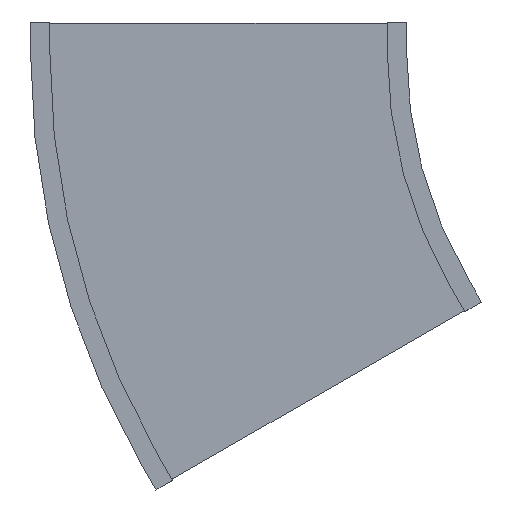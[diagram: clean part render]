
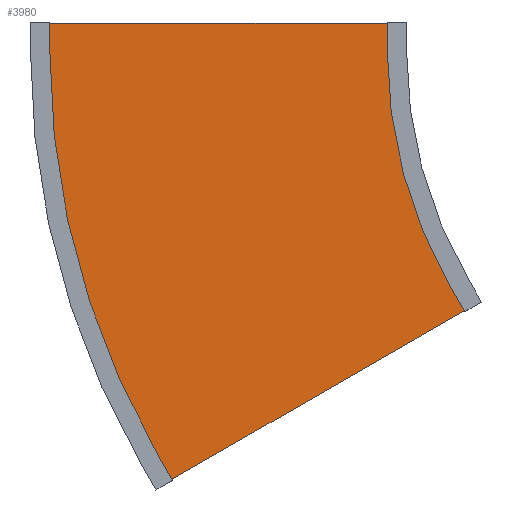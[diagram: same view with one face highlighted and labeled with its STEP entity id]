
A CAD part, front view. The second image highlights one B-rep face of the part: STEP entity #3980.
In plain terms, the highlighted planar face has unit normal (0, -1, 0).
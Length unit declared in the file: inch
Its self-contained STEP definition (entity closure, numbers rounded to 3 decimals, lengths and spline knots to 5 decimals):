
#3825=DIRECTION('',(0.,0.,1.));
#3826=VECTOR('',#3825,35.875);
#3827=CARTESIAN_POINT('',(-2.875,0.,-17.9375));
#3828=LINE('',#3827,#3826);
#3829=DIRECTION('',(1.,0.,0.));
#3830=VECTOR('',#3829,2.875);
#3831=CARTESIAN_POINT('',(-2.875,0.,17.9375));
#3832=LINE('',#3831,#3830);
#3833=CARTESIAN_POINT('',(0.,0.,66.11));
#3834=DIRECTION('',(0.,-1.,0.));
#3835=DIRECTION('',(0.,0.,-1.));
#3836=AXIS2_PLACEMENT_3D('',#3833,#3834,#3835);
#3838=DIRECTION('',(0.866,0.,0.5));
#3839=VECTOR('',#3838,2.875);
#3840=CARTESIAN_POINT('',(24.08625,0.,24.39139));
#3841=LINE('',#3840,#3839);
#3842=DIRECTION('',(0.5,0.,-0.866));
#3843=VECTOR('',#3842,35.875);
#3844=CARTESIAN_POINT('',(26.57607,0.,25.82889));
#3845=LINE('',#3844,#3843);
#3846=DIRECTION('',(-0.866,0.,-0.5));
#3847=VECTOR('',#3846,2.875);
#3848=CARTESIAN_POINT('',(44.51357,0.,-5.23977));
#3849=LINE('',#3848,#3847);
#3850=CARTESIAN_POINT('',(0.,0.,66.11));
#3851=DIRECTION('',(0.,1.,0.));
#3852=DIRECTION('',(0.5,0.,-0.866));
#3853=AXIS2_PLACEMENT_3D('',#3850,#3851,#3852);
#3855=DIRECTION('',(-1.,0.,0.));
#3856=VECTOR('',#3855,2.875);
#3857=CARTESIAN_POINT('',(0.,0.,-17.9375));
#3858=LINE('',#3857,#3856);
#3925=CARTESIAN_POINT('',(-2.875,0.,-17.9375));
#3926=CARTESIAN_POINT('',(-2.875,0.,17.9375));
#3927=VERTEX_POINT('',#3925);
#3928=VERTEX_POINT('',#3926);
#3929=CARTESIAN_POINT('',(0.,0.,17.9375));
#3930=VERTEX_POINT('',#3929);
#3931=CARTESIAN_POINT('',(24.08625,0.,24.39139));
#3932=VERTEX_POINT('',#3931);
#3933=CARTESIAN_POINT('',(26.57607,0.,25.82889));
#3934=VERTEX_POINT('',#3933);
#3935=CARTESIAN_POINT('',(44.51357,0.,-5.23977));
#3936=VERTEX_POINT('',#3935);
#3937=CARTESIAN_POINT('',(42.02375,0.,-6.67727));
#3938=VERTEX_POINT('',#3937);
#3939=CARTESIAN_POINT('',(0.,0.,-17.9375));
#3940=VERTEX_POINT('',#3939);
#3957=CARTESIAN_POINT('',(0.,0.,0.));
#3958=DIRECTION('',(0.,1.,0.));
#3959=DIRECTION('',(1.,0.,0.));
#3960=AXIS2_PLACEMENT_3D('',#3957,#3958,#3959);
#3961=PLANE('',#3960);
#3963=ORIENTED_EDGE('',*,*,#3962,.T.);
#3965=ORIENTED_EDGE('',*,*,#3964,.T.);
#3967=ORIENTED_EDGE('',*,*,#3966,.T.);
#3969=ORIENTED_EDGE('',*,*,#3968,.T.);
#3971=ORIENTED_EDGE('',*,*,#3970,.T.);
#3973=ORIENTED_EDGE('',*,*,#3972,.T.);
#3975=ORIENTED_EDGE('',*,*,#3974,.T.);
#3977=ORIENTED_EDGE('',*,*,#3976,.T.);
#3978=EDGE_LOOP('',(#3963,#3965,#3967,#3969,#3971,#3973,#3975,#3977));
#3979=FACE_OUTER_BOUND('',#3978,.F.);
#3980=ADVANCED_FACE('',(#3979),#3961,.F.);
#3837=CIRCLE('',#3836,48.1725);
#3854=CIRCLE('',#3853,84.0475);
#3962=EDGE_CURVE('',#3927,#3928,#3828,.T.);
#3964=EDGE_CURVE('',#3928,#3930,#3832,.T.);
#3966=EDGE_CURVE('',#3930,#3932,#3837,.T.);
#3968=EDGE_CURVE('',#3932,#3934,#3841,.T.);
#3970=EDGE_CURVE('',#3934,#3936,#3845,.T.);
#3972=EDGE_CURVE('',#3936,#3938,#3849,.T.);
#3974=EDGE_CURVE('',#3938,#3940,#3854,.T.);
#3976=EDGE_CURVE('',#3940,#3927,#3858,.T.);
